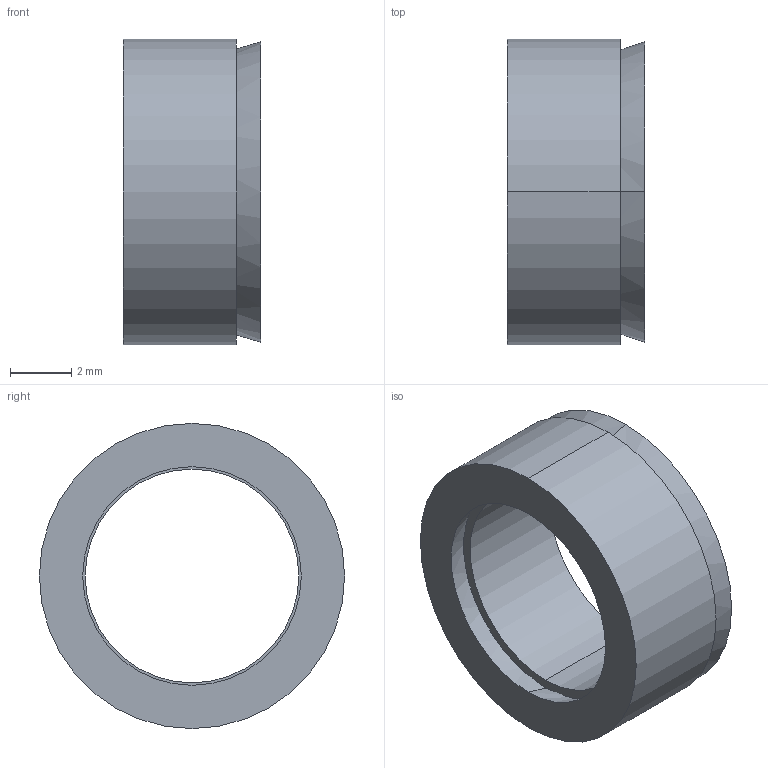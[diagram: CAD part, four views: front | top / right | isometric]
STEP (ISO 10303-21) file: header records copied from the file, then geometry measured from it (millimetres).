
FILE_DESCRIPTION (( 'STEP AP203' ), '1' );
FILE_NAME ('R-07-10.STEP', '2017-11-06T01:20:41', ( 'MYCOM' ), ( '' ), 'SwSTEP 2.0', 'SolidWorks 2015', '' );
FILE_SCHEMA (( 'CONFIG_CONTROL_DESIGN' ));
Length unit declared in the file: millimetre
Products named in the file (1): R-07-10
Bounding box: 4.5 x 10 x 10 mm (x, y, z)
Surface area: 496.3 mm2 (no closed solid volume)
Topology: 0 solids, 2 shells, 12 faces, 24 edges, 16 vertices
Faces by surface type: cone 4, cylinder 4, plane 4
Entity records: 406 total; most frequent: DIRECTION 66, CARTESIAN_POINT 53, ORIENTED_EDGE 48, AXIS2_PLACEMENT_3D 29, EDGE_CURVE 24, EDGE_LOOP 16, CIRCLE 16, VERTEX_POINT 16
